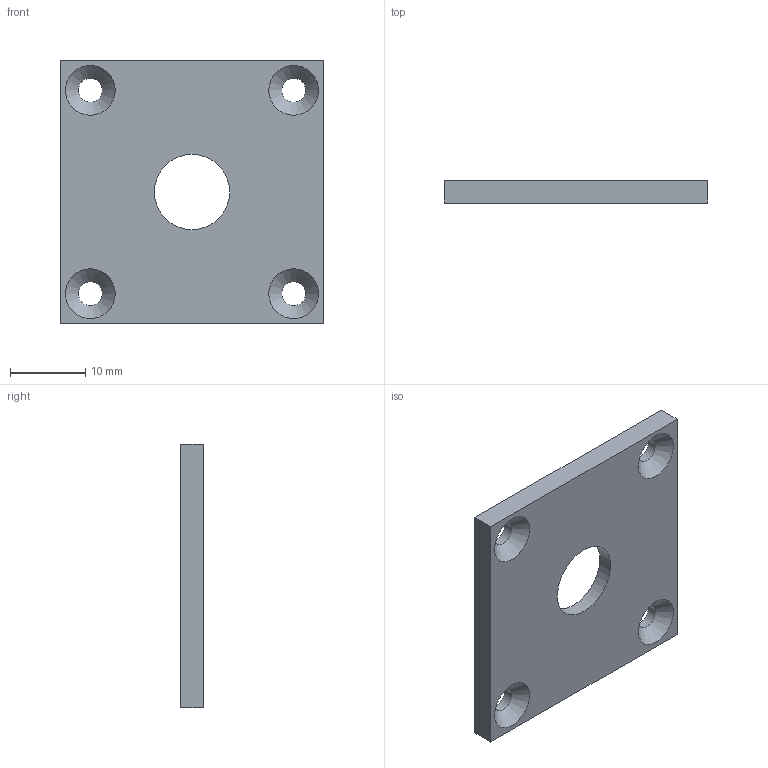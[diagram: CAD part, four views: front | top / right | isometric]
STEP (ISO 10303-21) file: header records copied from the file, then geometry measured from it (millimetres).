
FILE_DESCRIPTION(/* description */ (''),/* implementation_level */ '2;1');
FILE_NAME(/* name */ 'D:/кек/АНЦП.014_спека_чертежи_step/АНЦП.014.00.00.004 v1.step',/* time_stamp */ '2021-11-09T09:46:32+03:00',/* author */ (''),/* organization */ (''),/* preprocessor_version */ 'ST-DEVELOPER v18.1',/* originating_system */ 'Autodesk Translation Framework v10.10.0.1391',/* authorisation */ '');
FILE_SCHEMA (('AUTOMOTIVE_DESIGN { 1 0 10303 214 3 1 1 }'));
Length unit declared in the file: millimetre
Products named in the file (1): АНЦП.014.00.00.004
Bounding box: 35 x 3 x 35 mm (x, y, z)
Volume: 3028.6 mm3; surface area: 2869.9 mm2
Topology: 1 solids, 1 shells, 17 faces, 38 edges, 24 vertices
Faces by surface type: plane 7, cylinder 6, cone 4
Full cylindrical faces by diameter (mm): 3.2 x4, 10 x1, 20 x1
Entity records: 536 total; most frequent: DIRECTION 90, CARTESIAN_POINT 80, ORIENTED_EDGE 76, EDGE_CURVE 38, AXIS2_PLACEMENT_3D 34, EDGE_LOOP 28, VERTEX_POINT 24, LINE 22
